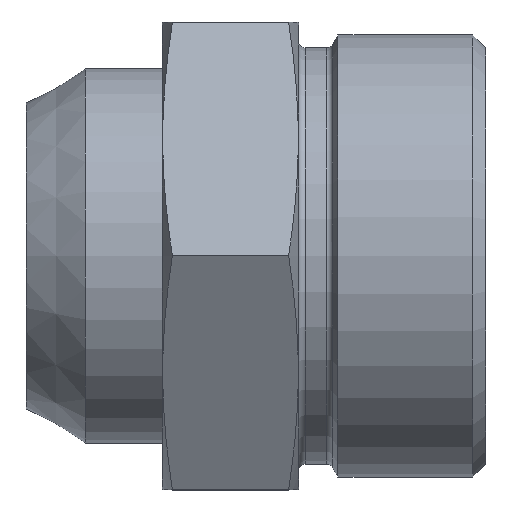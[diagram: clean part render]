
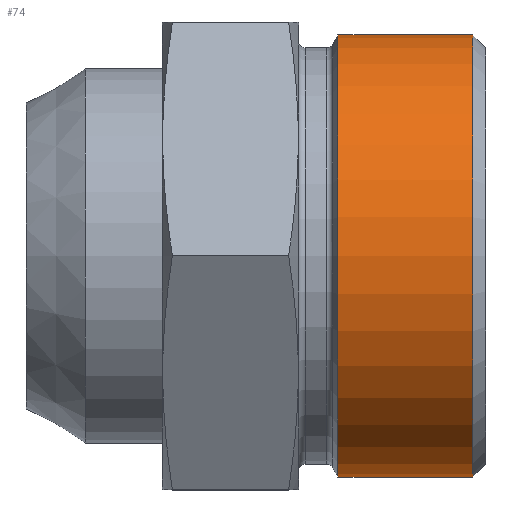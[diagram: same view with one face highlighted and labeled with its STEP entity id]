
A CAD part, top view. The second image highlights one B-rep face of the part: STEP entity #74.
In plain terms, the highlighted cylindrical face has radius 26 mm (diameter 52 mm), a full revolution.
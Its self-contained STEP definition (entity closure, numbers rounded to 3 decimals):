
#74 = ADVANCED_FACE( '', ( #161, #162 ), #163, .T. );
#161 = FACE_OUTER_BOUND( '', #258, .T. );
#162 = FACE_OUTER_BOUND( '', #259, .T. );
#163 = CYLINDRICAL_SURFACE( '', #260, 26. );
#258 = EDGE_LOOP( '', ( #392 ) );
#259 = EDGE_LOOP( '', ( #393 ) );
#260 = AXIS2_PLACEMENT_3D( '', #394, #395, #396 );
#392 = ORIENTED_EDGE( '', *, *, #511, .T. );
#393 = ORIENTED_EDGE( '', *, *, #468, .F. );
#394 = CARTESIAN_POINT( '', ( -60., 0., 0. ) );
#395 = DIRECTION( '', ( 1., 0., 0. ) );
#396 = DIRECTION( '', ( 0., 0., 1. ) );
#468 = EDGE_CURVE( '', #528, #528, #529, .T. );
#511 = EDGE_CURVE( '', #597, #597, #598, .T. );
#528 = VERTEX_POINT( '', #616 );
#529 = CIRCLE( '', #617, 26. );
#597 = VERTEX_POINT( '', #775 );
#598 = CIRCLE( '', #776, 26. );
#616 = CARTESIAN_POINT( '', ( -17.365, 0., 26. ) );
#617 = AXIS2_PLACEMENT_3D( '', #810, #811, #812 );
#775 = CARTESIAN_POINT( '', ( -1.5, 0., 26. ) );
#776 = AXIS2_PLACEMENT_3D( '', #858, #859, #860 );
#810 = CARTESIAN_POINT( '', ( -17.365, 0., 0. ) );
#811 = DIRECTION( '', ( -1., 0., 0. ) );
#812 = DIRECTION( '', ( 0., 0., 1. ) );
#858 = CARTESIAN_POINT( '', ( -1.5, 0., 0. ) );
#859 = DIRECTION( '', ( -1., 0., 0. ) );
#860 = DIRECTION( '', ( 0., 0., 1. ) );
